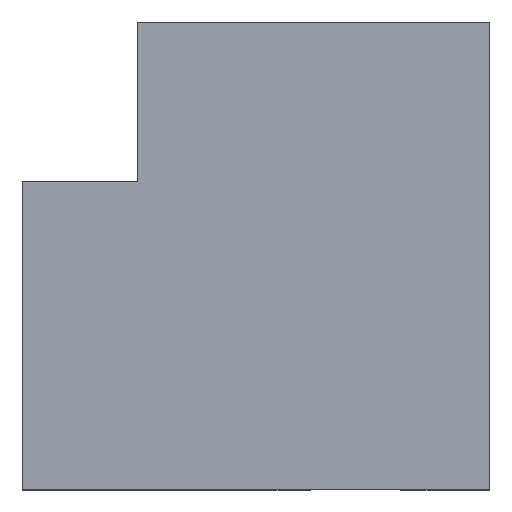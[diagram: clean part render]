
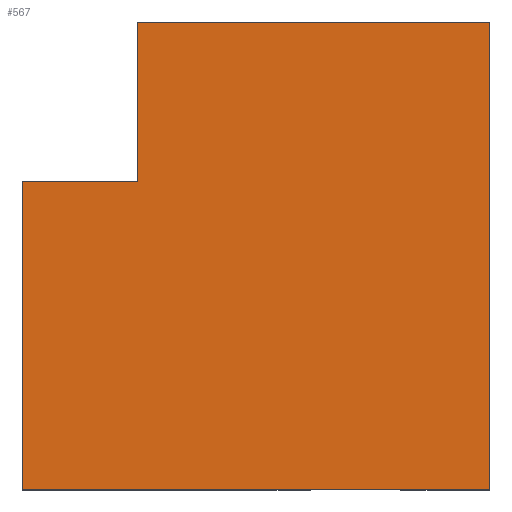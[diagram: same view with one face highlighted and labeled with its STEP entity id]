
A CAD part, top view. The second image highlights one B-rep face of the part: STEP entity #567.
In plain terms, the highlighted planar face has unit normal (0, 0, 1).
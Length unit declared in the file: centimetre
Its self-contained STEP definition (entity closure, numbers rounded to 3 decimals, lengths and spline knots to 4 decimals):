
#3 = ORIENTED_EDGE ( 'NONE', *, *, #253, .F. ) ;
#15 = DIRECTION ( 'NONE',  ( 0., -1., 0. ) ) ;
#30 = LINE ( 'NONE', #259, #536 ) ;
#50 = CARTESIAN_POINT ( 'NONE',  ( 1000., 1000., 1000. ) ) ;
#52 = DIRECTION ( 'NONE',  ( 1., 0., 0. ) ) ;
#53 = CARTESIAN_POINT ( 'NONE',  ( 246.2086, 659.6317, 1000. ) ) ;
#69 = VERTEX_POINT ( 'NONE', #53 ) ;
#110 = LINE ( 'NONE', #630, #190 ) ;
#113 = CARTESIAN_POINT ( 'NONE',  ( 0., 1000., 1000. ) ) ;
#126 = EDGE_CURVE ( 'NONE', #654, #518, #110, .T. ) ;
#135 = ORIENTED_EDGE ( 'NONE', *, *, #365, .T. ) ;
#140 = DIRECTION ( 'NONE',  ( 0., 1., 0. ) ) ;
#143 = CARTESIAN_POINT ( 'NONE',  ( 1000., 0., 1000. ) ) ;
#144 = DIRECTION ( 'NONE',  ( 1., 0., 0. ) ) ;
#182 = EDGE_CURVE ( 'NONE', #69, #301, #261, .T. ) ;
#190 = VECTOR ( 'NONE', #450, 100. ) ;
#193 = ORIENTED_EDGE ( 'NONE', *, *, #182, .F. ) ;
#209 = ORIENTED_EDGE ( 'NONE', *, *, #746, .T. ) ;
#233 = CARTESIAN_POINT ( 'NONE',  ( 246.2086, 1000., 1000. ) ) ;
#253 = EDGE_CURVE ( 'NONE', #532, #69, #30, .T. ) ;
#259 = CARTESIAN_POINT ( 'NONE',  ( 0., 659.6317, 1000. ) ) ;
#261 = LINE ( 'NONE', #309, #298 ) ;
#284 = LINE ( 'NONE', #113, #383 ) ;
#295 = DIRECTION ( 'NONE',  ( -1., 0., 0. ) ) ;
#298 = VECTOR ( 'NONE', #140, 100. ) ;
#301 = VERTEX_POINT ( 'NONE', #233 ) ;
#309 = CARTESIAN_POINT ( 'NONE',  ( 246.2086, 659.6317, 1000. ) ) ;
#320 = DIRECTION ( 'NONE',  ( 0., 0., 1. ) ) ;
#365 = EDGE_CURVE ( 'NONE', #532, #635, #284, .T. ) ;
#382 = CARTESIAN_POINT ( 'NONE',  ( 0., 0., 1000. ) ) ;
#383 = VECTOR ( 'NONE', #15, 100. ) ;
#393 = AXIS2_PLACEMENT_3D ( 'NONE', #431, #320, #553 ) ;
#415 = CARTESIAN_POINT ( 'NONE',  ( 0., 1000., 1000. ) ) ;
#431 = CARTESIAN_POINT ( 'NONE',  ( 0., 0., 1000. ) ) ;
#440 = FACE_OUTER_BOUND ( 'NONE', #652, .T. ) ;
#449 = LINE ( 'NONE', #731, #478 ) ;
#450 = DIRECTION ( 'NONE',  ( 0., 1., 0. ) ) ;
#453 = CARTESIAN_POINT ( 'NONE',  ( 0., 659.6317, 1000. ) ) ;
#472 = EDGE_CURVE ( 'NONE', #635, #654, #449, .T. ) ;
#478 = VECTOR ( 'NONE', #52, 100. ) ;
#482 = PLANE ( 'NONE',  #393 ) ;
#518 = VERTEX_POINT ( 'NONE', #50 ) ;
#532 = VERTEX_POINT ( 'NONE', #453 ) ;
#536 = VECTOR ( 'NONE', #144, 100. ) ;
#553 = DIRECTION ( 'NONE',  ( 1., 0., 0. ) ) ;
#567 = ADVANCED_FACE ( 'NONE', ( #440 ), #482, .T. ) ;
#630 = CARTESIAN_POINT ( 'NONE',  ( 1000., 1000., 1000. ) ) ;
#635 = VERTEX_POINT ( 'NONE', #382 ) ;
#643 = LINE ( 'NONE', #415, #680 ) ;
#652 = EDGE_LOOP ( 'NONE', ( #193, #3, #135, #708, #726, #209 ) ) ;
#654 = VERTEX_POINT ( 'NONE', #143 ) ;
#680 = VECTOR ( 'NONE', #295, 100. ) ;
#708 = ORIENTED_EDGE ( 'NONE', *, *, #472, .T. ) ;
#726 = ORIENTED_EDGE ( 'NONE', *, *, #126, .T. ) ;
#731 = CARTESIAN_POINT ( 'NONE',  ( 0., 0., 1000. ) ) ;
#746 = EDGE_CURVE ( 'NONE', #518, #301, #643, .T. ) ;
